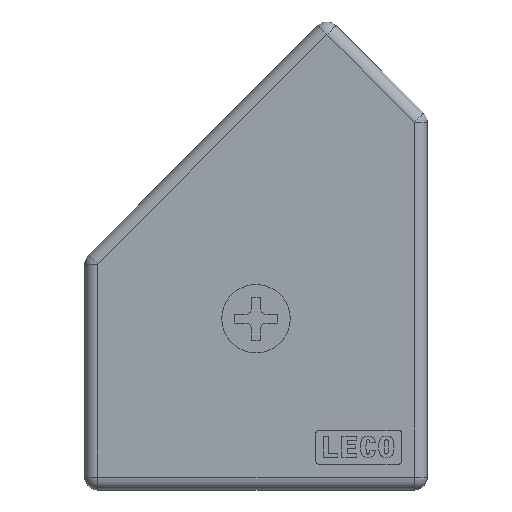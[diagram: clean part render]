
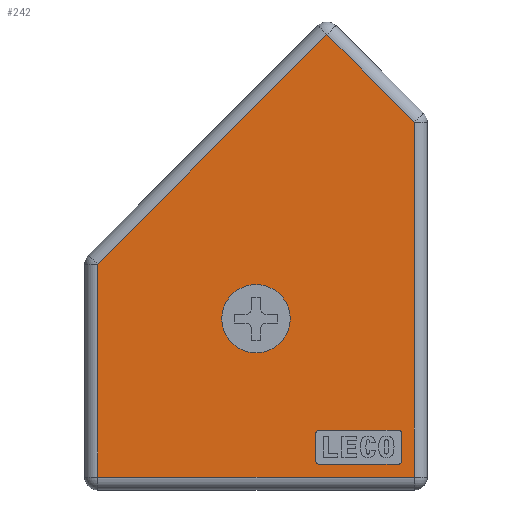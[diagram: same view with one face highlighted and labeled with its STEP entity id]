
A CAD part, top view. The second image highlights one B-rep face of the part: STEP entity #242.
In plain terms, the highlighted planar face has unit normal (0, 0, 1).
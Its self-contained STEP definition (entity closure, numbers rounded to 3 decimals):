
#242=ADVANCED_FACE('',(#680,#681,#682),#683,.F.);
#680=FACE_BOUND('',#1322,.T.);
#681=FACE_BOUND('',#1323,.T.);
#682=FACE_OUTER_BOUND('',#1324,.T.);
#683=PLANE('',#1325);
#1322=EDGE_LOOP('',(#4125,#4126,#4127,#4128,#4129,#4130,#4131,#4132));
#1323=EDGE_LOOP('',(#4133));
#1324=EDGE_LOOP('',(#4134,#4135,#4136,#4137,#4138));
#1325=AXIS2_PLACEMENT_3D('',#4139,#4140,#4141);
#4125=ORIENTED_EDGE('',*,*,#5922,.F.);
#4126=ORIENTED_EDGE('',*,*,#5923,.F.);
#4127=ORIENTED_EDGE('',*,*,#5924,.F.);
#4128=ORIENTED_EDGE('',*,*,#5925,.F.);
#4129=ORIENTED_EDGE('',*,*,#5926,.F.);
#4130=ORIENTED_EDGE('',*,*,#5927,.F.);
#4131=ORIENTED_EDGE('',*,*,#5928,.F.);
#4132=ORIENTED_EDGE('',*,*,#5929,.F.);
#4133=ORIENTED_EDGE('',*,*,#5930,.T.);
#4134=ORIENTED_EDGE('',*,*,#5931,.F.);
#4135=ORIENTED_EDGE('',*,*,#5932,.T.);
#4136=ORIENTED_EDGE('',*,*,#5933,.T.);
#4137=ORIENTED_EDGE('',*,*,#5934,.T.);
#4138=ORIENTED_EDGE('',*,*,#5935,.T.);
#4139=CARTESIAN_POINT('',(1.5,56.97,3.));
#4140=DIRECTION('',(0.0,0.0,-1.0));
#4141=DIRECTION('',(0.0,1.0,0.0));
#5922=EDGE_CURVE('',#6670,#6671,#6672,.T.);
#5923=EDGE_CURVE('',#6673,#6670,#6674,.T.);
#5924=EDGE_CURVE('',#6675,#6673,#6676,.T.);
#5925=EDGE_CURVE('',#6677,#6675,#6678,.T.);
#5926=EDGE_CURVE('',#6679,#6677,#6680,.T.);
#5927=EDGE_CURVE('',#6681,#6679,#6682,.T.);
#5928=EDGE_CURVE('',#6683,#6681,#6684,.T.);
#5929=EDGE_CURVE('',#6671,#6683,#6685,.T.);
#5930=EDGE_CURVE('',#6686,#6686,#6687,.T.);
#5931=EDGE_CURVE('',#6688,#6689,#6690,.T.);
#5932=EDGE_CURVE('',#6688,#6691,#6692,.T.);
#5933=EDGE_CURVE('',#6691,#6693,#6694,.T.);
#5934=EDGE_CURVE('',#6693,#6695,#6696,.T.);
#5935=EDGE_CURVE('',#6695,#6689,#6697,.T.);
#6670=VERTEX_POINT('',#7827);
#6671=VERTEX_POINT('',#7828);
#6672=LINE('',#7829,#7830);
#6673=VERTEX_POINT('',#7831);
#6674=CIRCLE('',#7832,0.4);
#6675=VERTEX_POINT('',#7833);
#6676=LINE('',#7834,#7835);
#6677=VERTEX_POINT('',#7836);
#6678=CIRCLE('',#7837,0.4);
#6679=VERTEX_POINT('',#7838);
#6680=LINE('',#7839,#7840);
#6681=VERTEX_POINT('',#7841);
#6682=CIRCLE('',#7842,0.4);
#6683=VERTEX_POINT('',#7843);
#6684=LINE('',#7844,#7845);
#6685=CIRCLE('',#7846,0.4);
#6686=VERTEX_POINT('',#7847);
#6687=CIRCLE('',#7848,4.0);
#6688=VERTEX_POINT('',#7849);
#6689=VERTEX_POINT('',#7850);
#6690=LINE('',#7851,#7852);
#6691=VERTEX_POINT('',#7853);
#6692=LINE('',#7854,#7855);
#6693=VERTEX_POINT('',#7856);
#6694=LINE('',#7857,#7858);
#6695=VERTEX_POINT('',#7859);
#6696=LINE('',#7860,#7861);
#6697=LINE('',#7862,#7863);
#7827=CARTESIAN_POINT('',(27.4,3.,3.));
#7828=CARTESIAN_POINT('',(36.6,3.,3.));
#7829=CARTESIAN_POINT('',(27.4,3.,3.));
#7830=VECTOR('',#9883,1.0);
#7831=CARTESIAN_POINT('',(27.,3.4,3.));
#7832=AXIS2_PLACEMENT_3D('',#9884,#9885,#9886);
#7833=CARTESIAN_POINT('',(27.,6.6,3.));
#7834=CARTESIAN_POINT('',(27.,6.6,3.));
#7835=VECTOR('',#9887,1.0);
#7836=CARTESIAN_POINT('',(27.4,7.,3.));
#7837=AXIS2_PLACEMENT_3D('',#9888,#9889,#9890);
#7838=CARTESIAN_POINT('',(36.6,7.,3.));
#7839=CARTESIAN_POINT('',(36.6,7.,3.));
#7840=VECTOR('',#9891,1.0);
#7841=CARTESIAN_POINT('',(37.,6.6,3.));
#7842=AXIS2_PLACEMENT_3D('',#9892,#9893,#9894);
#7843=CARTESIAN_POINT('',(37.,3.4,3.));
#7844=CARTESIAN_POINT('',(37.,3.4,3.));
#7845=VECTOR('',#9895,1.0);
#7846=AXIS2_PLACEMENT_3D('',#9896,#9897,#9898);
#7847=CARTESIAN_POINT('',(20.,24.0,3.));
#7848=AXIS2_PLACEMENT_3D('',#9899,#9900,#9901);
#7849=CARTESIAN_POINT('',(38.5,42.947,3.));
#7850=CARTESIAN_POINT('',(38.5,1.5,3.));
#7851=CARTESIAN_POINT('',(38.5,56.97,3.));
#7852=VECTOR('',#9902,1.0);
#7853=CARTESIAN_POINT('',(28.284,53.163,3.));
#7854=CARTESIAN_POINT('',(12.988,68.459,3.));
#7855=VECTOR('',#9903,1.0);
#7856=CARTESIAN_POINT('',(1.5,26.379,3.));
#7857=CARTESIAN_POINT('',(16.796,41.675,3.));
#7858=VECTOR('',#9904,1.0);
#7859=CARTESIAN_POINT('',(1.5,1.5,3.));
#7860=CARTESIAN_POINT('',(1.5,56.97,3.));
#7861=VECTOR('',#9905,1.0);
#7862=CARTESIAN_POINT('',(-4.836,1.5,3.));
#7863=VECTOR('',#9906,1.0);
#9883=DIRECTION('',(1.0,0.0,0.0));
#9884=CARTESIAN_POINT('',(27.4,3.4,3.));
#9885=DIRECTION('',(0.0,0.0,1.0));
#9886=DIRECTION('',(1.0,0.0,0.0));
#9887=DIRECTION('',(0.0,-1.0,0.0));
#9888=CARTESIAN_POINT('',(27.4,6.6,3.));
#9889=DIRECTION('',(0.0,0.0,1.0));
#9890=DIRECTION('',(1.0,0.0,0.0));
#9891=DIRECTION('',(-1.0,0.0,0.0));
#9892=CARTESIAN_POINT('',(36.6,6.6,3.));
#9893=DIRECTION('',(0.0,0.0,1.0));
#9894=DIRECTION('',(1.0,0.0,0.0));
#9895=DIRECTION('',(0.,1.0,0.0));
#9896=CARTESIAN_POINT('',(36.6,3.4,3.));
#9897=DIRECTION('',(0.0,0.0,1.0));
#9898=DIRECTION('',(1.0,0.0,0.0));
#9899=CARTESIAN_POINT('',(20.,20.0,3.));
#9900=DIRECTION('',(0.0,0.0,-1.0));
#9901=DIRECTION('',(0.0,1.0,0.0));
#9902=DIRECTION('',(0.0,-1.0,0.0));
#9903=DIRECTION('',(-0.707,0.707,0.0));
#9904=DIRECTION('',(-0.707,-0.707,0.0));
#9905=DIRECTION('',(0.0,-1.0,0.0));
#9906=DIRECTION('',(1.0,0.0,0.0));
